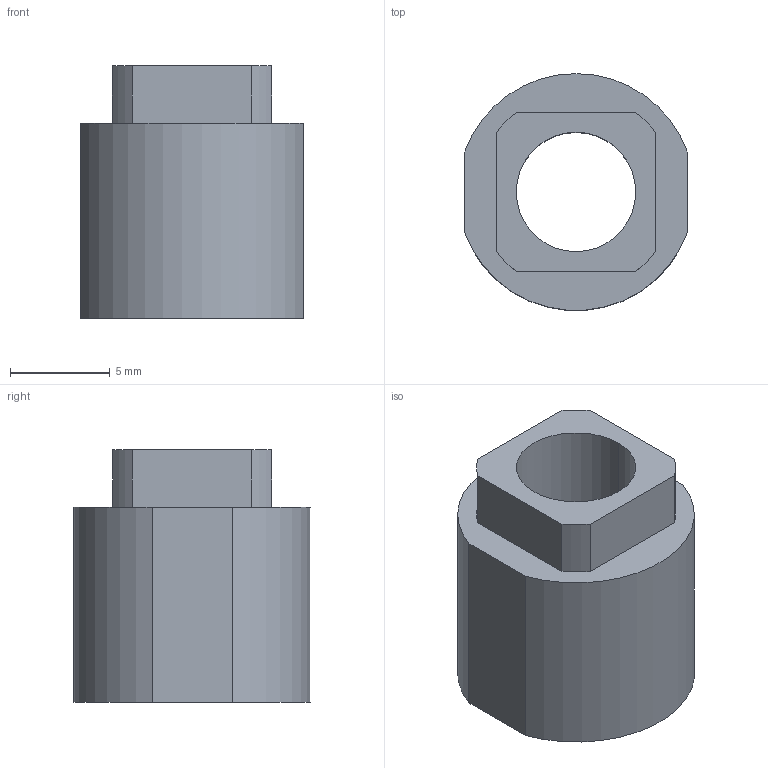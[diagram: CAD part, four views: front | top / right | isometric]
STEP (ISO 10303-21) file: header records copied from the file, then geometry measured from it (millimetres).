
FILE_DESCRIPTION (( 'STEP AP214' ), '1' );
FILE_NAME ('1C.901.001.STEP', '2009-10-13T10:23:57', ( 'abc' ), ( '' ), 'SwSTEP 2.0', 'SolidWorks 2004231', '' );
FILE_SCHEMA (( 'AUTOMOTIVE_DESIGN' ));
Length unit declared in the file: millimetre
Products named in the file (1): 1C.901.001
Bounding box: 11.2 x 11.88 x 12.7 mm (x, y, z)
Volume: 769.9 mm3; surface area: 890.7 mm2
Topology: 1 solids, 1 shells, 27 faces, 69 edges, 46 vertices
Faces by surface type: plane 14, cylinder 13
Entity records: 856 total; most frequent: DIRECTION 151, CARTESIAN_POINT 143, ORIENTED_EDGE 138, EDGE_CURVE 69, AXIS2_PLACEMENT_3D 54, VERTEX_POINT 46, VECTOR 43, LINE 43
